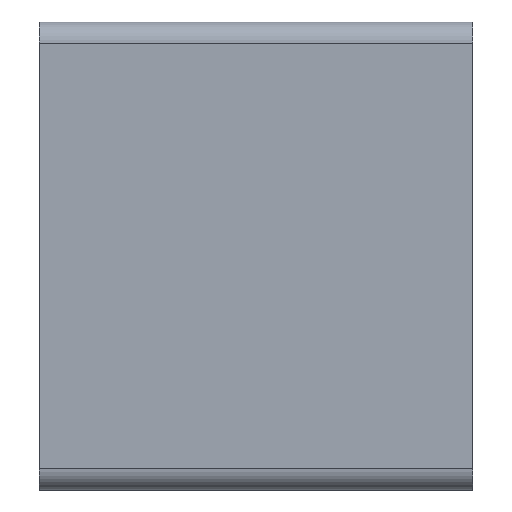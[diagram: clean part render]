
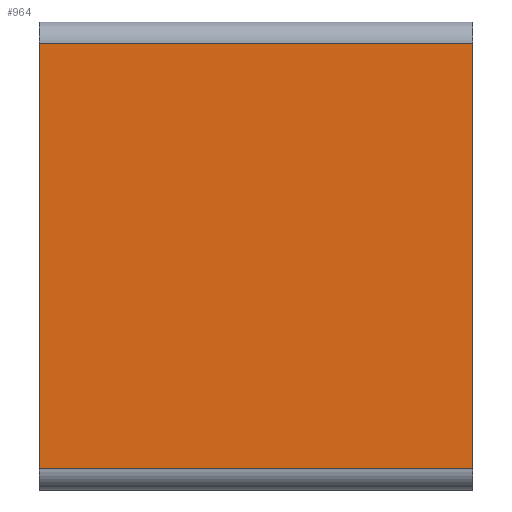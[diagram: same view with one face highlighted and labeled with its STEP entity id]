
A CAD part, left-side view. The second image highlights one B-rep face of the part: STEP entity #964.
In plain terms, the highlighted planar face has unit normal (-1, 0, 0).
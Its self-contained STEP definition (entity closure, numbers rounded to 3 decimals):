
#23=PLANE('',#1048);
#57=FACE_OUTER_BOUND('',#114,.T.);
#114=EDGE_LOOP('',(#690,#691,#692,#693));
#172=LINE('',#1456,#268);
#185=LINE('',#1504,#281);
#186=LINE('',#1508,#282);
#187=LINE('',#1509,#283);
#268=VECTOR('',#1150,10.);
#281=VECTOR('',#1191,10.);
#282=VECTOR('',#1196,10.);
#283=VECTOR('',#1197,10.);
#413=VERTEX_POINT('',#1453);
#414=VERTEX_POINT('',#1455);
#435=VERTEX_POINT('',#1503);
#436=VERTEX_POINT('',#1507);
#511=EDGE_CURVE('',#413,#414,#172,.F.);
#535=EDGE_CURVE('',#414,#435,#185,.T.);
#537=EDGE_CURVE('',#436,#413,#186,.T.);
#538=EDGE_CURVE('',#435,#436,#187,.F.);
#690=ORIENTED_EDGE('',*,*,#535,.F.);
#691=ORIENTED_EDGE('',*,*,#511,.F.);
#692=ORIENTED_EDGE('',*,*,#537,.F.);
#693=ORIENTED_EDGE('',*,*,#538,.F.);
#964=ADVANCED_FACE('',(#57),#23,.T.);
#1048=AXIS2_PLACEMENT_3D('',#1506,#1194,#1195);
#1150=DIRECTION('',(0.,0.,1.));
#1191=DIRECTION('',(0.,1.,0.));
#1194=DIRECTION('center_axis',(-1.,0.,0.));
#1195=DIRECTION('ref_axis',(0.,0.,1.));
#1196=DIRECTION('',(0.,-1.,0.));
#1197=DIRECTION('',(0.,0.,-1.));
#1453=CARTESIAN_POINT('',(-21.,-0.4,10.));
#1455=CARTESIAN_POINT('',(-21.,-0.4,-10.));
#1456=CARTESIAN_POINT('',(-21.,-0.4,-5.5));
#1503=CARTESIAN_POINT('',(-21.,20.,-10.));
#1504=CARTESIAN_POINT('',(-21.,0.,-10.));
#1506=CARTESIAN_POINT('Origin',(-21.,0.,-11.));
#1507=CARTESIAN_POINT('',(-21.,20.,10.));
#1508=CARTESIAN_POINT('',(-21.,0.,10.));
#1509=CARTESIAN_POINT('',(-21.,20.,-5.5));
